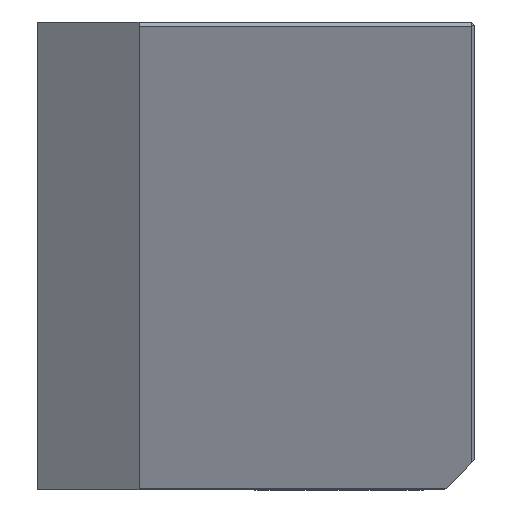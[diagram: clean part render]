
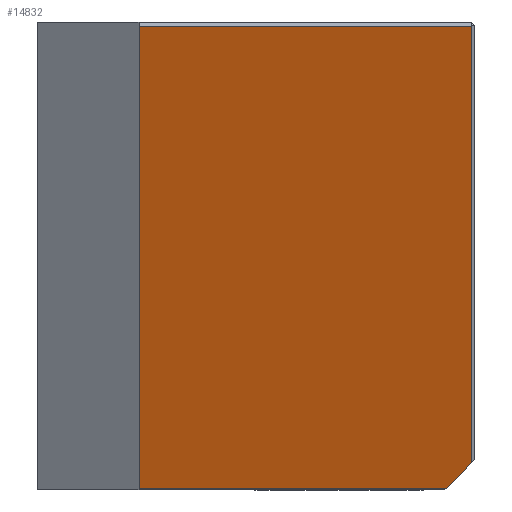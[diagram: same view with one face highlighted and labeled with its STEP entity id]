
A CAD part, left-side view. The second image highlights one B-rep face of the part: STEP entity #14832.
In plain terms, the highlighted planar face has unit normal (-0.943, 0, -0.334).
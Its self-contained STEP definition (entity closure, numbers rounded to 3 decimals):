
#5125=DIRECTION('',(-0.334,0.,0.942));
#5126=VECTOR('',#5125,32.509);
#5127=CARTESIAN_POINT('',(11.28,22.25,-30.906));
#5128=LINE('',#5127,#5126);
#5129=DIRECTION('',(0.,-1.,0.));
#5130=VECTOR('',#5129,22.05);
#5131=CARTESIAN_POINT('',(0.413,22.25,-0.267));
#5132=LINE('',#5131,#5130);
#5133=DIRECTION('',(0.334,0.,-0.942));
#5134=VECTOR('',#5133,30.699);
#5135=CARTESIAN_POINT('',(0.413,0.2,-0.267));
#5136=LINE('',#5135,#5134);
#5137=DIRECTION('',(-0.243,-0.686,0.686));
#5138=VECTOR('',#5137,2.487);
#5139=CARTESIAN_POINT('',(11.28,1.906,-30.906));
#5140=LINE('',#5139,#5138);
#5141=DIRECTION('',(0.,-1.,0.));
#5142=VECTOR('',#5141,20.344);
#5143=CARTESIAN_POINT('',(11.28,22.25,-30.906));
#5144=LINE('',#5143,#5142);
#7553=CARTESIAN_POINT('',(11.28,22.25,-30.906));
#7554=CARTESIAN_POINT('',(0.413,22.25,-0.267));
#7555=VERTEX_POINT('',#7553);
#7556=VERTEX_POINT('',#7554);
#7568=CARTESIAN_POINT('',(10.675,0.2,-29.2));
#7570=VERTEX_POINT('',#7568);
#7571=CARTESIAN_POINT('',(0.413,0.2,-0.267));
#7572=VERTEX_POINT('',#7571);
#7577=CARTESIAN_POINT('',(11.28,1.906,-30.906));
#7579=VERTEX_POINT('',#7577);
#14820=CARTESIAN_POINT('',(11.313,0.,-31.));
#14821=DIRECTION('',(-0.942,0.,-0.334));
#14822=DIRECTION('',(-0.334,0.,0.942));
#14823=AXIS2_PLACEMENT_3D('',#14820,#14821,#14822);
#14824=PLANE('',#14823);
#14825=ORIENTED_EDGE('',*,*,#14655,.T.);
#14826=ORIENTED_EDGE('',*,*,#14673,.T.);
#14827=ORIENTED_EDGE('',*,*,#14697,.T.);
#14828=ORIENTED_EDGE('',*,*,#14714,.F.);
#14829=ORIENTED_EDGE('',*,*,#14813,.F.);
#14830=EDGE_LOOP('',(#14825,#14826,#14827,#14828,#14829));
#14831=FACE_OUTER_BOUND('',#14830,.F.);
#14832=ADVANCED_FACE('',(#14831),#14824,.T.);
#14655=EDGE_CURVE('',#7555,#7556,#5128,.T.);
#14673=EDGE_CURVE('',#7556,#7572,#5132,.T.);
#14697=EDGE_CURVE('',#7572,#7570,#5136,.T.);
#14714=EDGE_CURVE('',#7579,#7570,#5140,.T.);
#14813=EDGE_CURVE('',#7555,#7579,#5144,.T.);
